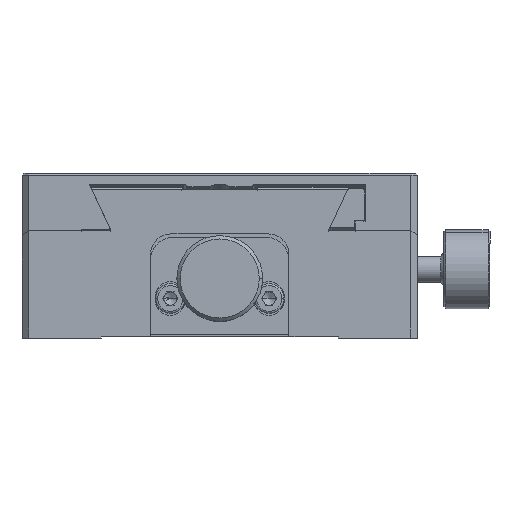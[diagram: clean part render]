
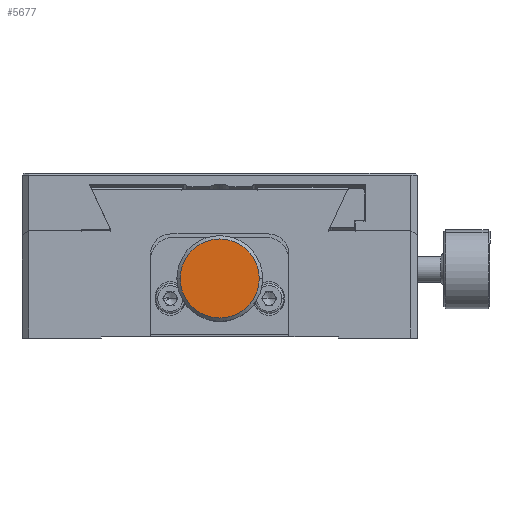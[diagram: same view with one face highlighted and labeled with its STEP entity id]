
A CAD part, top view. The second image highlights one B-rep face of the part: STEP entity #5677.
In plain terms, the highlighted planar face has unit normal (0, 0, 1).
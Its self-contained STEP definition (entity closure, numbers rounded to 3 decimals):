
#2225 = DIRECTION ( 'NONE',  ( 1., 0., 0. ) ) ;
#3973 = EDGE_LOOP ( 'NONE', ( #26961, #13194 ) ) ;
#4505 = CARTESIAN_POINT ( 'NONE',  ( 56.058, 45.337, 100.179 ) ) ;
#4766 = CARTESIAN_POINT ( 'NONE',  ( 44.058, 45.337, 100.179 ) ) ;
#5677 = ADVANCED_FACE ( 'NONE', ( #12578 ), #16518, .F. ) ;
#9297 = AXIS2_PLACEMENT_3D ( 'NONE', #25301, #29228, #38030 ) ;
#11923 = EDGE_CURVE ( 'NONE', #34919, #30924, #14532, .T. ) ;
#12578 = FACE_OUTER_BOUND ( 'NONE', #3973, .T. ) ;
#13194 = ORIENTED_EDGE ( 'NONE', *, *, #11923, .T. ) ;
#14532 = CIRCLE ( 'NONE', #37799, 6. ) ;
#16518 = PLANE ( 'NONE',  #9297 ) ;
#17001 = CARTESIAN_POINT ( 'NONE',  ( 50.058, 45.337, 100.179 ) ) ;
#19590 = CARTESIAN_POINT ( 'NONE',  ( 50.058, 45.337, 100.179 ) ) ;
#25301 = CARTESIAN_POINT ( 'NONE',  ( 50.058, 45.337, 100.179 ) ) ;
#25836 = DIRECTION ( 'NONE',  ( 0., 0., 1. ) ) ;
#26961 = ORIENTED_EDGE ( 'NONE', *, *, #28685, .T. ) ;
#28543 = DIRECTION ( 'NONE',  ( 1., 0., 0. ) ) ;
#28685 = EDGE_CURVE ( 'NONE', #30924, #34919, #31153, .T. ) ;
#29228 = DIRECTION ( 'NONE',  ( 0., 0., -1. ) ) ;
#29704 = DIRECTION ( 'NONE',  ( 0., 0., 1. ) ) ;
#30924 = VERTEX_POINT ( 'NONE', #4505 ) ;
#31153 = CIRCLE ( 'NONE', #36539, 6. ) ;
#34919 = VERTEX_POINT ( 'NONE', #4766 ) ;
#36539 = AXIS2_PLACEMENT_3D ( 'NONE', #17001, #29704, #2225 ) ;
#37799 = AXIS2_PLACEMENT_3D ( 'NONE', #19590, #25836, #28543 ) ;
#38030 = DIRECTION ( 'NONE',  ( 1., 0., 0. ) ) ;
